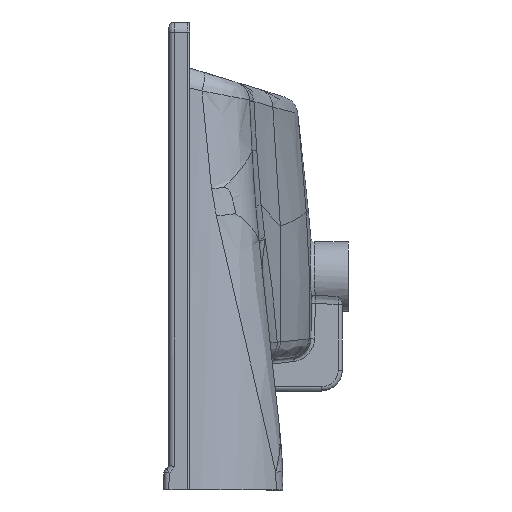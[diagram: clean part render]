
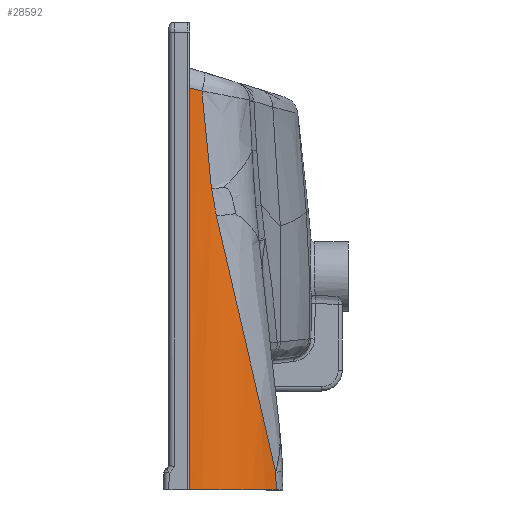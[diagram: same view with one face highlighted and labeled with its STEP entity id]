
A CAD part, left-side view. The second image highlights one B-rep face of the part: STEP entity #28592.
In plain terms, the highlighted cylindrical face has radius 107.352 mm (diameter 214.703 mm), a partial arc.
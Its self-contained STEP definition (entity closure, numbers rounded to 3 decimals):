
#144 = CARTESIAN_POINT ( 'NONE',  ( -350.133, -70.061, -65.509 ) ) ;
#2101 = CARTESIAN_POINT ( 'NONE',  ( -363.463, -26.206, 160.422 ) ) ;
#2250 = CARTESIAN_POINT ( 'NONE',  ( -257.063, -10.79, -196.512 ) ) ;
#2294 = VERTEX_POINT ( 'NONE', #34333 ) ;
#2487 = ORIENTED_EDGE ( 'NONE', *, *, #2621, .T. ) ;
#2505 =( BOUNDED_CURVE ( )  B_SPLINE_CURVE ( 3, ( #8713, #22453, #30305, #43207 ),
 .UNSPECIFIED., .F., .T. ) 
 B_SPLINE_CURVE_WITH_KNOTS ( ( 4, 4 ),
 ( 4.678, 4.683 ),
 .UNSPECIFIED. ) 
 CURVE ( )  GEOMETRIC_REPRESENTATION_ITEM ( )  RATIONAL_B_SPLINE_CURVE ( ( 1., 1., 1., 1. ) ) 
 REPRESENTATION_ITEM ( '' )  );
#2540 = VERTEX_POINT ( 'NONE', #39739 ) ;
#2621 = EDGE_CURVE ( 'NONE', #2725, #8204, #38678, .T. ) ;
#2725 = VERTEX_POINT ( 'NONE', #11458 ) ;
#2830 = ORIENTED_EDGE ( 'NONE', *, *, #9288, .T. ) ;
#3057 = CARTESIAN_POINT ( 'NONE',  ( -359.194, -43.927, 47.401 ) ) ;
#5428 = CARTESIAN_POINT ( 'NONE',  ( -364.349, -14.517, 163.389 ) ) ;
#5577 = CARTESIAN_POINT ( 'NONE',  ( -360.134, -40.802, 69.151 ) ) ;
#6156 = ORIENTED_EDGE ( 'NONE', *, *, #7524, .F. ) ;
#6427 = CARTESIAN_POINT ( 'NONE',  ( -358.49, -45.958, 38.624 ) ) ;
#7524 = EDGE_CURVE ( 'NONE', #2540, #34625, #36451, .T. ) ;
#7656 = AXIS2_PLACEMENT_3D ( 'NONE', #12112, #19091, #29446 ) ;
#7839 = CARTESIAN_POINT ( 'NONE',  ( -364.367, -13.953, -224.712 ) ) ;
#8204 = VERTEX_POINT ( 'NONE', #5428 ) ;
#8713 = CARTESIAN_POINT ( 'NONE',  ( -364.349, -14.517, -176.545 ) ) ;
#9076 = CARTESIAN_POINT ( 'NONE',  ( -362.307, -31.957, 158.963 ) ) ;
#9288 = EDGE_CURVE ( 'NONE', #8204, #26228, #17846, .T. ) ;
#9843 = EDGE_CURVE ( 'NONE', #2294, #2725, #16707, .T. ) ;
#10404 = CARTESIAN_POINT ( 'NONE',  ( -312.136, -102.937, -207.758 ) ) ;
#10973 =( BOUNDED_CURVE ( )  B_SPLINE_CURVE ( 3, ( #20411, #31643, #144, #11166 ),
 .UNSPECIFIED., .F., .F. ) 
 B_SPLINE_CURVE_WITH_KNOTS ( ( 4, 4 ),
 ( 0.541, 1.239 ),
 .UNSPECIFIED. ) 
 CURVE ( )  GEOMETRIC_REPRESENTATION_ITEM ( )  RATIONAL_B_SPLINE_CURVE ( ( 1., 0.96, 0.96, 1. ) ) 
 REPRESENTATION_ITEM ( '' )  );
#11166 = CARTESIAN_POINT ( 'NONE',  ( -358.49, -45.958, 38.624 ) ) ;
#11458 = CARTESIAN_POINT ( 'NONE',  ( -362.307, -31.957, 158.963 ) ) ;
#11770 = EDGE_CURVE ( 'NONE', #38771, #2294, #27435, .T. ) ;
#12112 = CARTESIAN_POINT ( 'NONE',  ( -257.063, -10.79, -224.712 ) ) ;
#12324 = CARTESIAN_POINT ( 'NONE',  ( -364.349, -14.517, -176.545 ) ) ;
#12676 = CARTESIAN_POINT ( 'NONE',  ( -364.349, -14.517, 163.389 ) ) ;
#13686 = AXIS2_PLACEMENT_3D ( 'NONE', #2250, #26779, #23170 ) ;
#13985 = VERTEX_POINT ( 'NONE', #24930 ) ;
#14231 = EDGE_CURVE ( 'NONE', #26228, #34625, #2505, .T. ) ;
#14460 = DIRECTION ( 'NONE',  ( 0., 0., -1. ) ) ;
#15759 = FACE_OUTER_BOUND ( 'NONE', #25820, .T. ) ;
#16707 = B_SPLINE_CURVE_WITH_KNOTS ( 'NONE', 3,
 ( #39837, #5577, #32844, #19298, #40050, #23114, #22893, #19519, #19953, #40266 ),
 .UNSPECIFIED., .F., .F.,
 ( 4, 2, 2, 2, 4 ),
 ( 0., 0.012, 0.024, 0.047, 0.094 ),
 .UNSPECIFIED. ) ;
#16803 = CARTESIAN_POINT ( 'NONE',  ( -360.029, -41.156, 65.244 ) ) ;
#17667 = EDGE_CURVE ( 'NONE', #2540, #13985, #25375, .T. ) ;
#17846 = LINE ( 'NONE', #18526, #41521 ) ;
#18526 = CARTESIAN_POINT ( 'NONE',  ( -364.349, -14.517, -196.512 ) ) ;
#18935 = ORIENTED_EDGE ( 'NONE', *, *, #31917, .T. ) ;
#19091 = DIRECTION ( 'NONE',  ( 0., 0., -1. ) ) ;
#19298 = CARTESIAN_POINT ( 'NONE',  ( -360.438, -39.738, 80.874 ) ) ;
#19519 = CARTESIAN_POINT ( 'NONE',  ( -361.607, -35.228, 127.742 ) ) ;
#19953 = CARTESIAN_POINT ( 'NONE',  ( -361.972, -33.621, 143.355 ) ) ;
#20411 = CARTESIAN_POINT ( 'NONE',  ( -312.136, -102.937, -207.758 ) ) ;
#21187 = CARTESIAN_POINT ( 'NONE',  ( -311.241, -103.466, -219.04 ) ) ;
#22453 = CARTESIAN_POINT ( 'NONE',  ( -364.356, -14.329, -192.6 ) ) ;
#22893 = CARTESIAN_POINT ( 'NONE',  ( -361.033, -37.532, 104.312 ) ) ;
#22950 = CYLINDRICAL_SURFACE ( 'NONE', #13686, 107.351 ) ;
#23060 = CARTESIAN_POINT ( 'NONE',  ( -358.49, -45.958, 38.624 ) ) ;
#23114 = CARTESIAN_POINT ( 'NONE',  ( -360.837, -38.282, 96.501 ) ) ;
#23170 = DIRECTION ( 'NONE',  ( -1., 0., 0. ) ) ;
#24128 = CARTESIAN_POINT ( 'NONE',  ( -311.553, -103.286, -213.389 ) ) ;
#24930 = CARTESIAN_POINT ( 'NONE',  ( -312.136, -102.937, -207.758 ) ) ;
#25375 = B_SPLINE_CURVE_WITH_KNOTS ( 'NONE', 3,
 ( #34502, #21187, #24128, #10404 ),
 .UNSPECIFIED., .F., .F.,
 ( 4, 4 ),
 ( 0., 0.017 ),
 .UNSPECIFIED. ) ;
#25820 = EDGE_LOOP ( 'NONE', ( #2830, #40066, #6156, #28076, #18935, #38913, #32999, #2487 ) ) ;
#26228 = VERTEX_POINT ( 'NONE', #12324 ) ;
#26779 = DIRECTION ( 'NONE',  ( 0., 0., -1. ) ) ;
#27435 = B_SPLINE_CURVE_WITH_KNOTS ( 'NONE', 3,
 ( #6427, #3057, #40701, #16803 ),
 .UNSPECIFIED., .F., .F.,
 ( 4, 4 ),
 ( 0., 0.027 ),
 .UNSPECIFIED. ) ;
#28076 = ORIENTED_EDGE ( 'NONE', *, *, #17667, .T. ) ;
#28592 = ADVANCED_FACE ( 'NONE', ( #15759 ), #22950, .T. ) ;
#29446 = DIRECTION ( 'NONE',  ( -1., 0., 0. ) ) ;
#30009 = CARTESIAN_POINT ( 'NONE',  ( -364.146, -20.379, 161.901 ) ) ;
#30305 = CARTESIAN_POINT ( 'NONE',  ( -364.362, -14.141, -208.655 ) ) ;
#31643 = CARTESIAN_POINT ( 'NONE',  ( -334.034, -89.85, -151.079 ) ) ;
#31917 = EDGE_CURVE ( 'NONE', #13985, #38771, #10973, .T. ) ;
#32844 = CARTESIAN_POINT ( 'NONE',  ( -360.236, -40.449, 73.059 ) ) ;
#32999 = ORIENTED_EDGE ( 'NONE', *, *, #9843, .T. ) ;
#34333 = CARTESIAN_POINT ( 'NONE',  ( -360.029, -41.156, 65.244 ) ) ;
#34502 = CARTESIAN_POINT ( 'NONE',  ( -311.227, -103.475, -224.712 ) ) ;
#34625 = VERTEX_POINT ( 'NONE', #7839 ) ;
#36451 = CIRCLE ( 'NONE', #7656, 107.351 ) ;
#38678 =( BOUNDED_CURVE ( )  B_SPLINE_CURVE ( 3, ( #9076, #2101, #30009, #12676 ),
 .UNSPECIFIED., .F., .F. ) 
 B_SPLINE_CURVE_WITH_KNOTS ( ( 4, 4 ),
 ( 1.372, 1.536 ),
 .UNSPECIFIED. ) 
 CURVE ( )  GEOMETRIC_REPRESENTATION_ITEM ( )  RATIONAL_B_SPLINE_CURVE ( ( 1., 0.998, 0.998, 1. ) ) 
 REPRESENTATION_ITEM ( '' )  );
#38771 = VERTEX_POINT ( 'NONE', #23060 ) ;
#38913 = ORIENTED_EDGE ( 'NONE', *, *, #11770, .T. ) ;
#39739 = CARTESIAN_POINT ( 'NONE',  ( -311.227, -103.475, -224.712 ) ) ;
#39837 = CARTESIAN_POINT ( 'NONE',  ( -360.029, -41.156, 65.244 ) ) ;
#40050 = CARTESIAN_POINT ( 'NONE',  ( -360.538, -39.378, 84.781 ) ) ;
#40066 = ORIENTED_EDGE ( 'NONE', *, *, #14231, .T. ) ;
#40266 = CARTESIAN_POINT ( 'NONE',  ( -362.307, -31.957, 158.963 ) ) ;
#40701 = CARTESIAN_POINT ( 'NONE',  ( -359.688, -42.316, 56.289 ) ) ;
#41521 = VECTOR ( 'NONE', #14460, 1000. ) ;
#43207 = CARTESIAN_POINT ( 'NONE',  ( -364.367, -13.953, -224.712 ) ) ;
